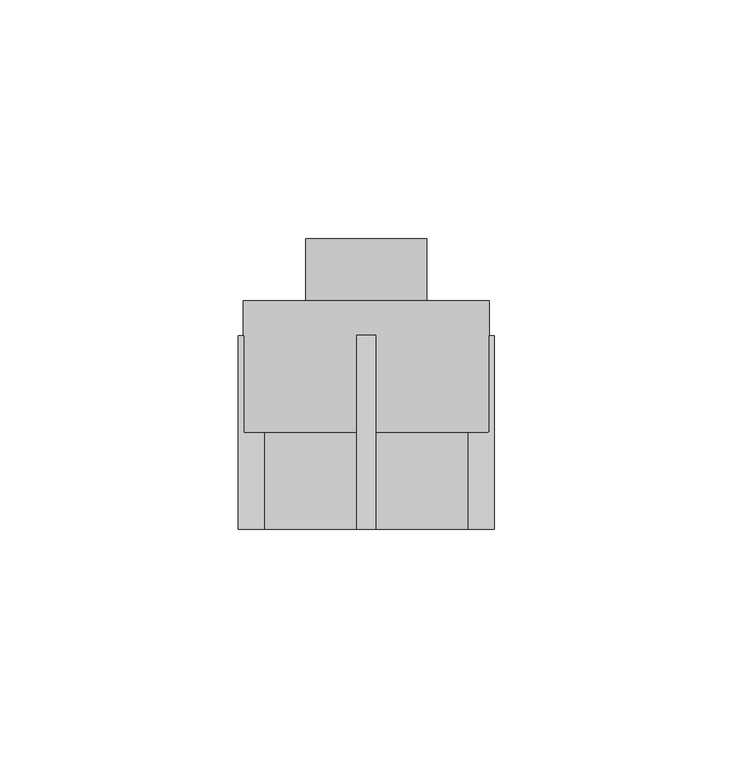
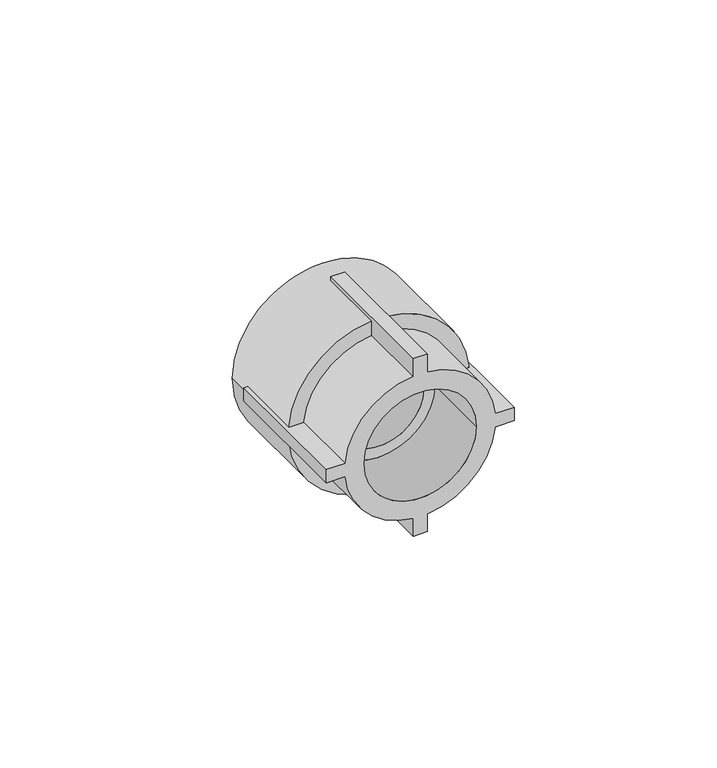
"""IFC4 building model written with IfcOpenShell, lengths in millimetres: pipe fitting geometry, EGB_VASEN_ PPR_Entronque rosca hembra WXR102 : Entronque rosca hembra WXR102."""

from ifc_helpers import new_model, si_unit, point, frame, origin, origin_2d, place, context, project, spatial, polyline, circle_curve, trimmed, segment, composite_curve, outline, extrude, source, transform, mapped, element, save
from ifc_brep_helpers import plane_surface, cylinder_surface, revolved_surface, advanced_brep


def pipe_fitting_8ee3f145(model_context):
    return source(origin(), model_context, "Body", "SolidModel", [
        advanced_brep(
        [(2.0, -20.3333333, 26.8), (-2.0, -20.3333333, 26.8), (-2.0, -20.3333333, 21.4067746), (-21.4067746, -20.3333333, 2.0), (-26.8, -20.3333333, 2.0), (-26.8, -20.3333333, -2.0), (-21.4067746, -20.3333333, -2.0), (-2.0, -20.3333333, -21.4067746), (-2.0, -20.3333333, -26.8), (2.0, -20.3333333, -26.8), (2.0, -20.3333333, -21.4067746), (21.4067746, -20.3333333, -2.0), (26.8, -20.3333333, -2.0), (26.8, -20.3333333, 2.0), (21.4067746, -20.3333333, 2.0), (2.0, -20.3333333, 21.4067746), (-16.0, -20.3333333, 0.0), (16.0, -20.3333333, 0.0), (-2.0, 20.3333333, 26.8), (2.0, 20.3333333, 26.8), (2.0, 20.3333333, 25.7223638), (-2.0, 20.3333333, 25.7223638), (2.0, 20.3333333, -26.8), (-2.0, 20.3333333, -26.8), (-2.0, 20.3333333, -25.7223638), (2.0, 20.3333333, -25.7223638), (26.8, 20.3333333, 2.0), (26.8, 20.3333333, -2.0), (25.7223638, 20.3333333, -2.0), (25.8, 20.3333333, 0.0), (25.7223638, 20.3333333, 2.0), (-26.8, 20.3333333, -2.0), (-26.8, 20.3333333, 2.0), (-25.7223638, 20.3333333, 2.0), (-25.8, 20.3333333, 0.0), (-25.7223638, 20.3333333, -2.0), (2.0, 0.0, 21.4067746), (2.0, 0.0, 25.7223638), (-2.0, 0.0, 25.7223638), (-2.0, 0.0, 21.4067746), (2.0, 0.0, -25.7223638), (2.0, 0.0, -21.4067746), (-2.0, 0.0, -21.4067746), (-2.0, 0.0, -25.7223638), (21.4067746, 0.0, -2.0), (25.7223638, 0.0, -2.0), (25.7223638, 0.0, 2.0), (21.4067746, 0.0, 2.0), (-25.7223638, 0.0, -2.0), (-21.4067746, 0.0, -2.0), (-21.4067746, 0.0, 2.0), (-25.7223638, 0.0, 2.0), (-16.0, 0.0, 0.0), (16.0, 0.0, 0.0), (-12.7, 0.0, 0.0), (12.7, 0.0, 0.0), (-25.8, 27.6666667, 0.0), (25.8, 27.6666667, 0.0), (-12.7, 27.6666667, 0.0), (12.7, 27.6666667, 0.0)],
        [
            (0, 1),
            (1, 2),
            (2, 3, circle_curve(frame((0.0, -20.3333333, 0.0), z_axis=(0.0, -1.0, 0.0), x_axis=(1.0, 0.0, 0.0)), 21.5)),
            (3, 4),
            (4, 5),
            (5, 6),
            (6, 7, circle_curve(frame((0.0, -20.3333333, 0.0), z_axis=(0.0, -1.0, 0.0), x_axis=(1.0, 0.0, 0.0)), 21.5)),
            (7, 8),
            (8, 9),
            (9, 10),
            (10, 11, circle_curve(frame((0.0, -20.3333333, 0.0), z_axis=(0.0, -1.0, 0.0), x_axis=(1.0, 0.0, 0.0)), 21.5)),
            (11, 12),
            (12, 13),
            (13, 14),
            (14, 15, circle_curve(frame((0.0, -20.3333333, 0.0), z_axis=(0.0, -1.0, 0.0), x_axis=(1.0, 0.0, 0.0)), 21.5)),
            (15, 0),
            (16, 17, circle_curve(frame((0.0, -20.3333333, 0.0), z_axis=(0.0, 1.0, 0.0), x_axis=(1.0, 0.0, 0.0)), 16.0)),
            (17, 16, circle_curve(frame((0.0, -20.3333333, 0.0), z_axis=(0.0, 1.0, 0.0), x_axis=(1.0, 0.0, 0.0)), 16.0)),
            (18, 19),
            (19, 20),
            (20, 21, circle_curve(frame((0.0, 20.3333333, 0.0), z_axis=(0.0, -1.0, 0.0), x_axis=(1.0, 0.0, 0.0)), 25.8)),
            (21, 18),
            (22, 23),
            (23, 24),
            (24, 25, circle_curve(frame((0.0, 20.3333333, 0.0), z_axis=(0.0, -1.0, 0.0), x_axis=(1.0, 0.0, 0.0)), 25.8)),
            (25, 22),
            (26, 27),
            (27, 28),
            (28, 29, circle_curve(frame((0.0, 20.3333333, 0.0), z_axis=(0.0, -1.0, 0.0), x_axis=(1.0, 0.0, 0.0)), 25.8)),
            (29, 30, circle_curve(frame((0.0, 20.3333333, 0.0), z_axis=(0.0, -1.0, 0.0), x_axis=(1.0, 0.0, 0.0)), 25.8)),
            (30, 26),
            (31, 32),
            (32, 33),
            (33, 34, circle_curve(frame((0.0, 20.3333333, 0.0), z_axis=(0.0, -1.0, 0.0), x_axis=(1.0, 0.0, 0.0)), 25.8)),
            (34, 35, circle_curve(frame((0.0, 20.3333333, 0.0), z_axis=(0.0, -1.0, 0.0), x_axis=(1.0, 0.0, 0.0)), 25.8)),
            (35, 31),
            (19, 0),
            (15, 36),
            (36, 37),
            (37, 20),
            (18, 1),
            (21, 38),
            (38, 39),
            (39, 2),
            (8, 23),
            (22, 9),
            (25, 40),
            (40, 41),
            (41, 10),
            (7, 42),
            (42, 43),
            (43, 24),
            (27, 12),
            (11, 44),
            (44, 45),
            (45, 28),
            (26, 13),
            (30, 46),
            (46, 47),
            (47, 14),
            (5, 31),
            (35, 48),
            (48, 49),
            (49, 6),
            (32, 4),
            (3, 50),
            (50, 51),
            (51, 33),
            (49, 42, circle_curve(frame((0.0, 0.0, 0.0), z_axis=(0.0, -1.0, 0.0), x_axis=(1.0, 0.0, 0.0)), 21.5)),
            (41, 44, circle_curve(frame((0.0, 0.0, 0.0), z_axis=(0.0, -1.0, 0.0), x_axis=(1.0, 0.0, 0.0)), 21.5)),
            (39, 50, circle_curve(frame((0.0, 0.0, 0.0), z_axis=(0.0, -1.0, 0.0), x_axis=(1.0, 0.0, 0.0)), 21.5)),
            (47, 36, circle_curve(frame((0.0, 0.0, 0.0), z_axis=(0.0, -1.0, 0.0), x_axis=(1.0, 0.0, 0.0)), 21.5)),
            (16, 52),
            (52, 53, circle_curve(frame((0.0, 0.0, 0.0), z_axis=(0.0, 1.0, 0.0), x_axis=(1.0, 0.0, 0.0)), 16.0)),
            (53, 17),
            (53, 52, circle_curve(frame((0.0, 0.0, 0.0), z_axis=(0.0, 1.0, 0.0), x_axis=(1.0, 0.0, 0.0)), 16.0)),
            (54, 55, circle_curve(frame((0.0, 0.0, 0.0), z_axis=(0.0, 1.0, 0.0), x_axis=(1.0, 0.0, 0.0)), 12.7)),
            (55, 54, circle_curve(frame((0.0, 0.0, 0.0), z_axis=(0.0, 1.0, 0.0), x_axis=(1.0, 0.0, 0.0)), 12.7)),
            (40, 45, circle_curve(frame((0.0, 0.0, 0.0), z_axis=(0.0, -1.0, 0.0), x_axis=(1.0, 0.0, 0.0)), 25.8)),
            (48, 43, circle_curve(frame((0.0, 0.0, 0.0), z_axis=(0.0, -1.0, 0.0), x_axis=(1.0, 0.0, 0.0)), 25.8)),
            (46, 37, circle_curve(frame((0.0, 0.0, 0.0), z_axis=(0.0, -1.0, 0.0), x_axis=(1.0, 0.0, 0.0)), 25.8)),
            (38, 51, circle_curve(frame((0.0, 0.0, 0.0), z_axis=(0.0, -1.0, 0.0), x_axis=(1.0, 0.0, 0.0)), 25.8)),
            (56, 57, circle_curve(frame((0.0, 27.6666667, 0.0), z_axis=(0.0, 1.0, 0.0), x_axis=(1.0, 0.0, 0.0)), 25.8)),
            (57, 56, circle_curve(frame((0.0, 27.6666667, 0.0), z_axis=(0.0, 1.0, 0.0), x_axis=(1.0, 0.0, 0.0)), 25.8)),
            (58, 59, circle_curve(frame((0.0, 27.6666667, 0.0), z_axis=(0.0, -1.0, 0.0), x_axis=(1.0, 0.0, 0.0)), 12.7)),
            (59, 58, circle_curve(frame((0.0, 27.6666667, 0.0), z_axis=(0.0, -1.0, 0.0), x_axis=(1.0, 0.0, 0.0)), 12.7)),
            (57, 29),
            (34, 56),
            (54, 58),
            (59, 55),
        ],
        [
            plane_surface(frame((0.0, -20.3333333, 0.0), z_axis=(0.0, -1.0, 0.0), x_axis=(0.0, 0.0, 1.0))),
            plane_surface(frame((0.0, 20.3333333, 0.0), z_axis=(0.0, 1.0, 0.0), x_axis=(0.0, 0.0, 1.0))),
            plane_surface(frame((2.0, -20.3333333, 20.5), z_axis=(1.0, 0.0, 0.0), x_axis=(0.0, 1.0, 0.0))),
            plane_surface(frame((2.0, -20.3333333, 26.8), z_axis=(0.0, 0.0, 1.0), x_axis=(0.0, 1.0, 0.0))),
            plane_surface(frame((-2.0, -20.3333333, 26.8), z_axis=(-1.0, 0.0, 0.0), x_axis=(0.0, 1.0, 0.0))),
            plane_surface(frame((-2.0, -20.3333333, -26.8), z_axis=(0.0, 0.0, -1.0), x_axis=(0.0, 1.0, 0.0))),
            plane_surface(frame((2.0, -20.3333333, -26.8), z_axis=(1.0, 0.0, 0.0), x_axis=(0.0, 1.0, 0.0))),
            plane_surface(frame((-2.0, -20.3333333, -20.5), z_axis=(-1.0, 0.0, 0.0), x_axis=(0.0, 1.0, 0.0))),
            plane_surface(frame((20.5, -20.3333333, -2.0), z_axis=(0.0, 0.0, -1.0), x_axis=(0.0, 1.0, 0.0))),
            plane_surface(frame((26.8, -20.3333333, -2.0), z_axis=(1.0, 0.0, 0.0), x_axis=(0.0, 1.0, 0.0))),
            plane_surface(frame((26.8, -20.3333333, 2.0), z_axis=(0.0, 0.0, 1.0), x_axis=(0.0, 1.0, 0.0))),
            plane_surface(frame((-26.8, -20.3333333, -2.0), z_axis=(0.0, 0.0, -1.0), x_axis=(0.0, 1.0, 0.0))),
            plane_surface(frame((-20.5, -20.3333333, 2.0), z_axis=(0.0, 0.0, 1.0), x_axis=(0.0, 1.0, 0.0))),
            plane_surface(frame((-26.8, -20.3333333, 2.0), z_axis=(-1.0, 0.0, 0.0), x_axis=(0.0, 1.0, 0.0))),
            cylinder_surface(frame((0.0, 0.0, 0.0), z_axis=(0.0, -1.0, 0.0), x_axis=(1.0, 0.0, 0.0)), 21.5),
            revolved_surface(polyline([(16.0, 0.0, 0.0), (16.0, -20.3333333, 0.0)]), (0.0, 0.0, 0.0), (0.0, 1.0, 0.0)),
            plane_surface(frame((25.8, 0.0, 0.0), z_axis=(0.0, -1.0, 0.0), x_axis=(0.0, 0.0, 1.0))),
            plane_surface(frame((25.8, 27.6666667, 0.0), z_axis=(0.0, 1.0, 0.0), x_axis=(0.0, 0.0, -1.0))),
            cylinder_surface(frame((0.0, 27.6666667, 0.0), z_axis=(0.0, -1.0, 0.0), x_axis=(1.0, 0.0, 0.0)), 25.8),
            revolved_surface(polyline([(12.7, 27.6666667, 0.0), (12.7, 0.0, 0.0)]), (0.0, 0.0, 0.0), (0.0, 1.0, 0.0)),
        ],
        [
            (0, [[1, 2, 3, 4, 5, 6, 7, 8, 9, 10, 11, 12, 13, 14, 15, 16], [17, 18]]),
            (1, [[19, 20, 21, 22]]),
            (1, [[23, 24, 25, 26]]),
            (1, [[27, 28, 29, 30, 31]]),
            (1, [[32, 33, 34, 35, 36]]),
            (2, [[37, -16, 38, 39, 40, -20]]),
            (3, [[-1, -37, -19, 41]]),
            (4, [[-41, -22, 42, 43, 44, -2]]),
            (5, [[-9, 45, -23, 46]]),
            (6, [[-46, -26, 47, 48, 49, -10]]),
            (7, [[-45, -8, 50, 51, 52, -24]]),
            (8, [[53, -12, 54, 55, 56, -28]]),
            (9, [[-13, -53, -27, 57]]),
            (10, [[-57, -31, 58, 59, 60, -14]]),
            (11, [[61, -36, 62, 63, 64, -6]]),
            (12, [[65, -4, 66, 67, 68, -33]]),
            (13, [[-5, -65, -32, -61]]),
            (14, [[-7, -64, 69, -50]]),
            (14, [[-11, -49, 70, -54]]),
            (14, [[-3, -44, 71, -66]]),
            (14, [[-15, -60, 72, -38]]),
            (15, [[-17, 73, 74, 75]]),
            (15, [[-18, -75, 76, -73]]),
            (16, [[-74, -76], [77, 78]]),
            (16, [[79, -55, -70, -48]]),
            (16, [[80, -51, -69, -63]]),
            (16, [[81, -39, -72, -59]]),
            (16, [[82, -67, -71, -43]]),
            (17, [[83, 84], [85, 86]]),
            (18, [[-84, 87, -29, -56, -79, -47, -25, -52, -80, -62, -35, 88]]),
            (18, [[-83, -88, -34, -68, -82, -42, -21, -40, -81, -58, -30, -87]]),
            (19, [[-77, 89, -86, 90]]),
            (19, [[-78, -90, -85, -89]]),
        ],
    ),
        extrude(outline(composite_curve([segment(trimmed(circle_curve(origin_2d(), 12.7), [point((0.0, -12.7))], [point((0.0, 12.7))], False, "CARTESIAN"), True, "CONTINUOUS"), segment(trimmed(circle_curve(origin_2d(), 12.7), [point((0.0, 12.7))], [point((0.0, -12.7))], False, "CARTESIAN"), True, "CONTINUOUS")], self_intersect=False)), frame((0.0, 20.3333333, 0.0), z_axis=(0.0, 1.0, 0.0), x_axis=(0.0, 0.0, 1.0)), (0.0, 0.0, 1.0), 20.3333333),
    ])


if __name__ == "__main__":
    model = new_model("IFC4")
    model_context = context("Model", 3, world=origin())
    ifc_project = project(units=[si_unit("LENGTHUNIT", "METRE", prefix="MILLI")], contexts=[model_context])
    site = spatial("IfcSite", under=ifc_project)
    building = spatial("IfcBuilding", under=site)
    placement = place(None, origin())
    pipe_fitting_shape = pipe_fitting_8ee3f145(model_context)
    element("IfcPipeFitting", 1, ObjectType="EGB_VASEN_ PPR_Entronque rosca hembra WXR102 : Entronque rosca hembra WXR102", at=placement, inside=building, context=model_context, shape_type="MappedRepresentation", body=[
        mapped(pipe_fitting_shape, transform((0.0, 0.0, 0.0), x_axis=(1.0, 0.0, 0.0), y_axis=(0.0, 1.0, 0.0), z_axis=(0.0, 0.0, 1.0))),
    ])
    save(model, "model.ifc")
